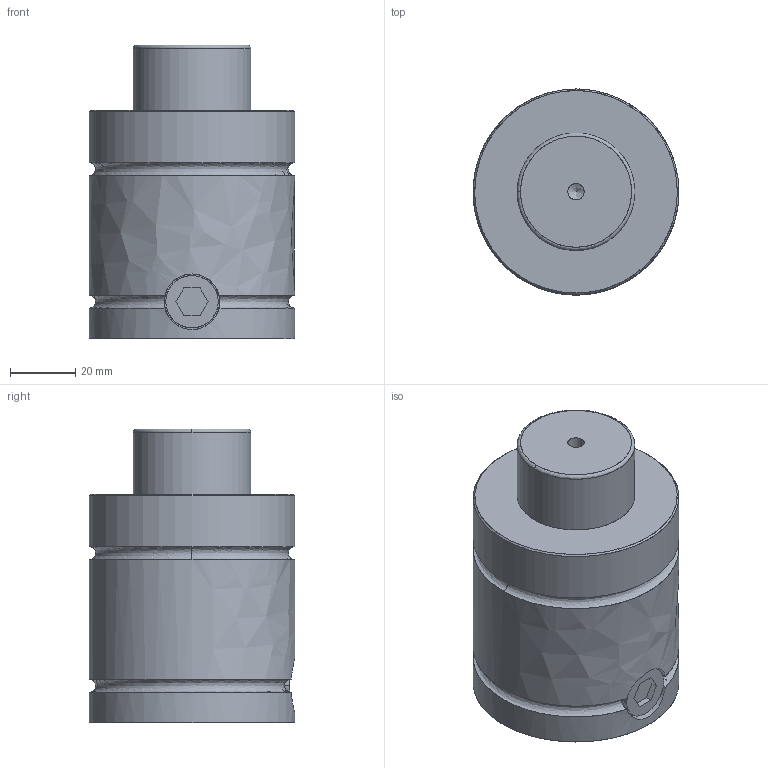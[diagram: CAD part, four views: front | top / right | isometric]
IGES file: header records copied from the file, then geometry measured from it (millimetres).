
Start section: VISI Layer Mapping Iges    VISI  0      LAYER_EMPTY  1      wwww  7      W_PD700  8      S_PD700  10     W_PD1000  11     S_PD1000  13     W_PD2000  14     S_PD2000  16     W_PD3000  17     S_PD3000  19     W_PD4000  20     S_PD4000  22     W_PD7000  23     S_PD7000  28     W_350  29     MS-350  30     MC-350  31     MP-350  32     MB-350  33     MH-350  34     MK-350  35     MPL-350  39     W_500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
Global section: file name: E:\だ錶臢\だ錶臢3D\SYLINDER\PT Series\PT1500\PT1500\PT1500-19.igs; native system: VISI 16.0; preprocessor: 2.0; author: 11; organization: 0; date: 500.; units: mil
Bounding box: 63 x 63 x 90 mm (x, y, z)
Surface area: 25055.2 mm2 (no closed solid volume)
Topology: 0 solids, 0 shells, 33 faces, 476 edges, 450 vertices
Faces by surface type: bspline 33
